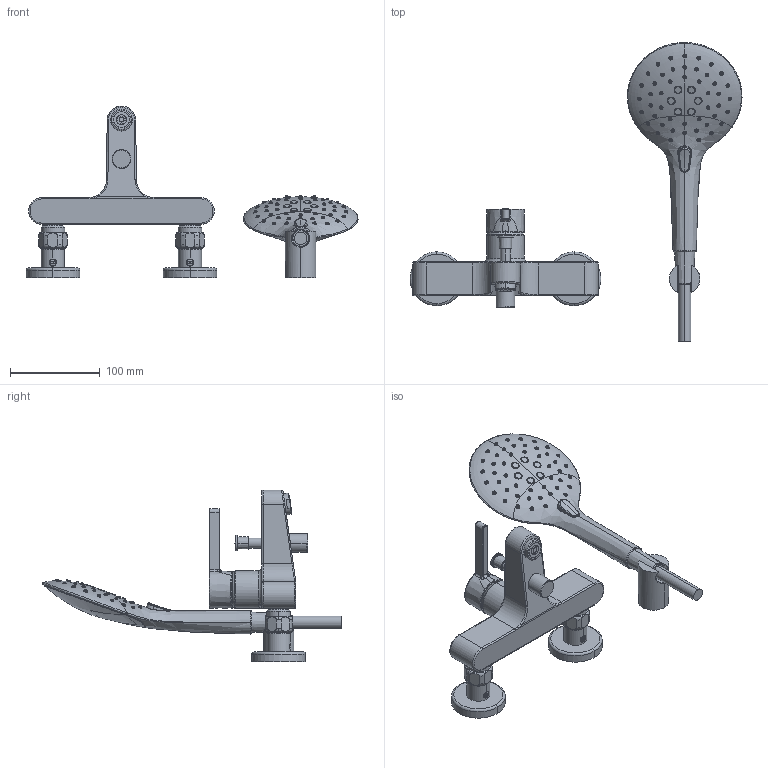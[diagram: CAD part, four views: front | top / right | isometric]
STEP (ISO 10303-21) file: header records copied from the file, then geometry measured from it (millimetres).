
FILE_DESCRIPTION((''),'2;1');
FILE_NAME('20422013','2018-10-08T',('DB991'),(''),'CREO PARAMETRIC BY PTC INC, 2016260','CREO PARAMETRIC BY PTC INC, 2016260','');
FILE_SCHEMA(('CONFIG_CONTROL_DESIGN'));
Products named in the file (1): 20422013
Bounding box: 370.44 x 333.48 x 191.6 mm (x, y, z)
Volume: 906336.4 mm3; surface area: 130659.2 mm2
Topology: 2 solids, 3 shells, 994 faces, 2445 edges, 1569 vertices
Faces by surface type: cone 307, torus 190, bspline 189, plane 162, cylinder 128, sphere 12, extrusion 4, revolution 2
Entity records: 41827 total; most frequent: CARTESIAN_POINT 19351, ORIENTED_EDGE 4874, DIRECTION 4448, EDGE_CURVE 2437, AXIS2_PLACEMENT_3D 1889, VERTEX_POINT 1569, EDGE_LOOP 1116, CIRCLE 1090
